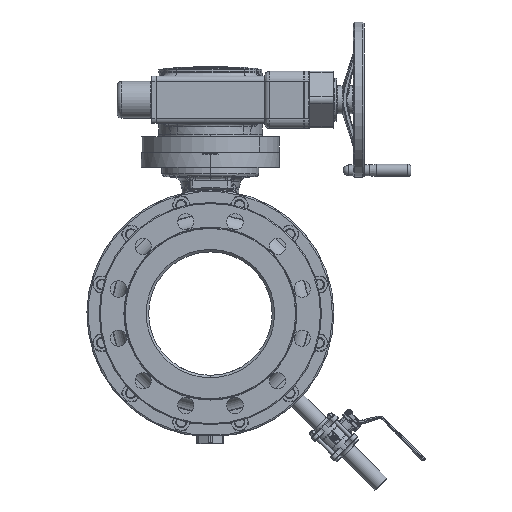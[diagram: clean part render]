
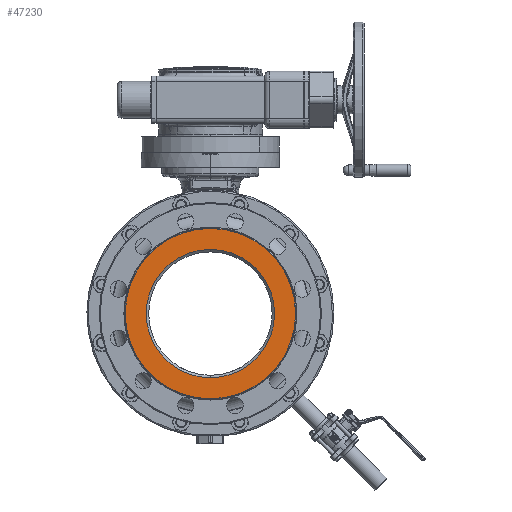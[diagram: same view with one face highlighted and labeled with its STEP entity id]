
A CAD part, left-side view. The second image highlights one B-rep face of the part: STEP entity #47230.
In plain terms, the highlighted planar face has unit normal (-1, 0, 0).
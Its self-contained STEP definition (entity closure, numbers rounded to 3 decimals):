
#142=CARTESIAN_POINT('',(-266.5,0.,0.));
#143=DIRECTION('',(-1.,0.,0.));
#144=DIRECTION('',(0.,0.,1.));
#145=AXIS2_PLACEMENT_3D('',#142,#143,#144);
#151=CARTESIAN_POINT('',(-266.5,0.,0.));
#152=DIRECTION('',(1.,0.,0.));
#153=DIRECTION('',(0.,0.,1.));
#154=AXIS2_PLACEMENT_3D('',#151,#152,#153);
#161=CARTESIAN_POINT('',(-266.5,0.,0.));
#162=DIRECTION('',(-1.,0.,0.));
#163=DIRECTION('',(0.,0.,1.));
#164=AXIS2_PLACEMENT_3D('',#161,#162,#163);
#166=CARTESIAN_POINT('',(-266.5,0.,0.));
#167=DIRECTION('',(1.,0.,0.));
#168=DIRECTION('',(0.,0.,1.));
#169=AXIS2_PLACEMENT_3D('',#166,#167,#168);
#45766=CARTESIAN_POINT('',(-266.5,0.,130.));
#45767=CARTESIAN_POINT('',(-266.5,0.,-130.));
#45768=VERTEX_POINT('',#45766);
#45769=VERTEX_POINT('',#45767);
#45878=CARTESIAN_POINT('',(-266.5,0.,172.5));
#45879=CARTESIAN_POINT('',(-266.5,0.,-172.5));
#45880=VERTEX_POINT('',#45878);
#45881=VERTEX_POINT('',#45879);
#47215=CARTESIAN_POINT('',(-266.5,0.,0.));
#47216=DIRECTION('',(1.,0.,0.));
#47217=DIRECTION('',(0.,0.,1.));
#47218=AXIS2_PLACEMENT_3D('',#47215,#47216,#47217);
#47219=PLANE('',#47218);
#47221=ORIENTED_EDGE('',*,*,#47220,.F.);
#47223=ORIENTED_EDGE('',*,*,#47222,.T.);
#47224=EDGE_LOOP('',(#47221,#47223));
#47225=FACE_OUTER_BOUND('',#47224,.F.);
#47226=ORIENTED_EDGE('',*,*,#47197,.F.);
#47227=ORIENTED_EDGE('',*,*,#47182,.T.);
#47228=EDGE_LOOP('',(#47226,#47227));
#47229=FACE_BOUND('',#47228,.F.);
#47230=ADVANCED_FACE('',(#47225,#47229),#47219,.F.);
#146=CIRCLE('',#145,130.);
#155=CIRCLE('',#154,130.);
#165=CIRCLE('',#164,172.5);
#170=CIRCLE('',#169,172.5);
#47182=EDGE_CURVE('',#45768,#45769,#146,.T.);
#47197=EDGE_CURVE('',#45768,#45769,#155,.T.);
#47220=EDGE_CURVE('',#45880,#45881,#165,.T.);
#47222=EDGE_CURVE('',#45880,#45881,#170,.T.);
